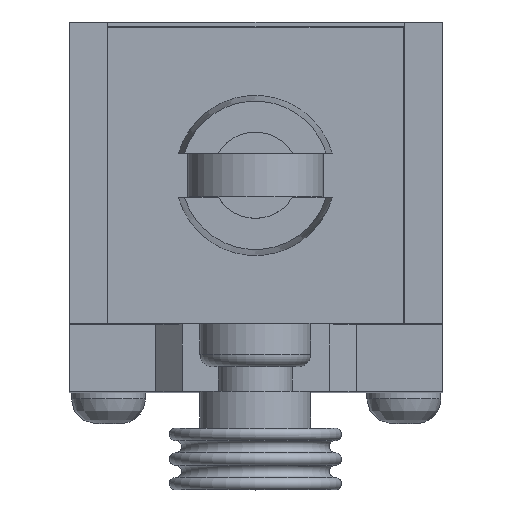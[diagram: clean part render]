
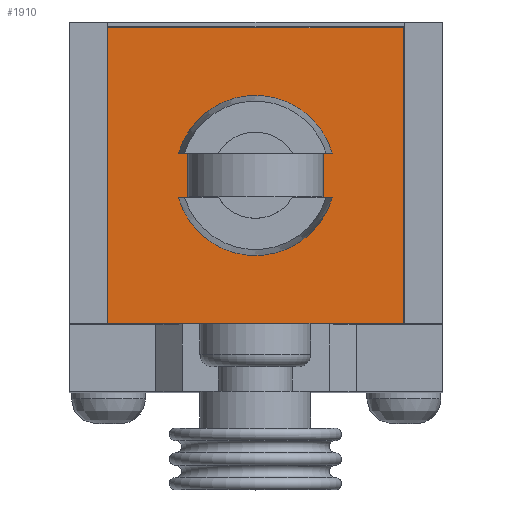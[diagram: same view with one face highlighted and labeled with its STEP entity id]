
A CAD part, top view. The second image highlights one B-rep face of the part: STEP entity #1910.
In plain terms, the highlighted planar face has unit normal (0, 0, 1).
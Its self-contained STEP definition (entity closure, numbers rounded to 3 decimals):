
#1687=CARTESIAN_POINT('',(12.,14.55,67.));
#1688=VERTEX_POINT('',#1687);
#1697=CARTESIAN_POINT('',(12.,-9.45,67.0));
#1698=VERTEX_POINT('',#1697);
#1699=CARTESIAN_POINT('',(12.,-9.45,67.));
#1700=DIRECTION('',(0.0,1.0,0.0));
#1701=VECTOR('',#1700,24.);
#1702=LINE('',#1699,#1701);
#1703=EDGE_CURVE('',#1698,#1688,#1702,.T.);
#1729=CARTESIAN_POINT('',(-12.,14.55,67.));
#1730=VERTEX_POINT('',#1729);
#1745=CARTESIAN_POINT('',(-12.,-9.45,67.0));
#1746=VERTEX_POINT('',#1745);
#1753=CARTESIAN_POINT('',(-12.,14.55,67.));
#1754=DIRECTION('',(0.0,-1.0,0.0));
#1755=VECTOR('',#1754,24.);
#1756=LINE('',#1753,#1755);
#1757=EDGE_CURVE('',#1730,#1746,#1756,.T.);
#1774=CARTESIAN_POINT('',(-12.,-9.45,67.));
#1775=DIRECTION('',(1.0,0.0,0.0));
#1776=VECTOR('',#1775,24.);
#1777=LINE('',#1774,#1776);
#1778=EDGE_CURVE('',#1746,#1698,#1777,.T.);
#1820=CARTESIAN_POINT('',(12.,14.55,67.));
#1821=DIRECTION('',(-1.0,0.0,0.0));
#1822=VECTOR('',#1821,24.);
#1823=LINE('',#1820,#1822);
#1824=EDGE_CURVE('',#1688,#1730,#1823,.T.);
#1829=CARTESIAN_POINT('',(0.,2.55,67.));
#1830=DIRECTION('',(0.0,0.0,1.0));
#1831=DIRECTION('',(1.0,0.0,0.0));
#1832=AXIS2_PLACEMENT_3D('',#1829,#1830,#1831);
#1833=PLANE('',#1832);
#1834=ORIENTED_EDGE('',*,*,#1703,.T.);
#1835=ORIENTED_EDGE('',*,*,#1824,.T.);
#1836=ORIENTED_EDGE('',*,*,#1757,.T.);
#1837=ORIENTED_EDGE('',*,*,#1778,.T.);
#1838=EDGE_LOOP('',(#1834,#1835,#1836,#1837));
#1839=FACE_OUTER_BOUND('',#1838,.T.);
#1840=CARTESIAN_POINT('',(3.002,4.35,67.));
#1841=VERTEX_POINT('',#1840);
#1842=CARTESIAN_POINT('',(3.002,0.75,67.));
#1843=VERTEX_POINT('',#1842);
#1844=CARTESIAN_POINT('',(0.,2.55,67.));
#1845=DIRECTION('',(0.0,0.0,-1.0));
#1846=DIRECTION('',(-1.0,0.0,0.0));
#1847=AXIS2_PLACEMENT_3D('',#1844,#1845,#1846);
#1848=CIRCLE('',#1847,3.5);
#1849=EDGE_CURVE('',#1841,#1843,#1848,.T.);
#1850=ORIENTED_EDGE('',*,*,#1849,.T.);
#1851=CARTESIAN_POINT('',(6.246,0.75,67.));
#1852=VERTEX_POINT('',#1851);
#1853=CARTESIAN_POINT('',(6.246,0.75,67.));
#1854=DIRECTION('',(-1.0,0.0,0.0));
#1855=VECTOR('',#1854,3.244);
#1856=LINE('',#1853,#1855);
#1857=EDGE_CURVE('',#1852,#1843,#1856,.T.);
#1858=ORIENTED_EDGE('',*,*,#1857,.F.);
#1859=CARTESIAN_POINT('',(-6.246,0.75,67.));
#1860=VERTEX_POINT('',#1859);
#1861=CARTESIAN_POINT('',(0.,2.55,67.));
#1862=DIRECTION('',(0.0,0.0,-1.0));
#1863=DIRECTION('',(-1.0,0.0,0.0));
#1864=AXIS2_PLACEMENT_3D('',#1861,#1862,#1863);
#1865=CIRCLE('',#1864,6.5);
#1866=EDGE_CURVE('',#1852,#1860,#1865,.T.);
#1867=ORIENTED_EDGE('',*,*,#1866,.T.);
#1868=CARTESIAN_POINT('',(-3.002,0.75,67.));
#1869=VERTEX_POINT('',#1868);
#1870=CARTESIAN_POINT('',(-3.002,0.75,67.));
#1871=DIRECTION('',(-1.0,0.0,0.0));
#1872=VECTOR('',#1871,3.244);
#1873=LINE('',#1870,#1872);
#1874=EDGE_CURVE('',#1869,#1860,#1873,.T.);
#1875=ORIENTED_EDGE('',*,*,#1874,.F.);
#1876=CARTESIAN_POINT('',(-3.002,4.35,67.));
#1877=VERTEX_POINT('',#1876);
#1878=CARTESIAN_POINT('',(0.,2.55,67.));
#1879=DIRECTION('',(0.0,0.0,-1.0));
#1880=DIRECTION('',(-1.0,0.0,0.0));
#1881=AXIS2_PLACEMENT_3D('',#1878,#1879,#1880);
#1882=CIRCLE('',#1881,3.5);
#1883=EDGE_CURVE('',#1869,#1877,#1882,.T.);
#1884=ORIENTED_EDGE('',*,*,#1883,.T.);
#1885=CARTESIAN_POINT('',(-6.246,4.35,67.));
#1886=VERTEX_POINT('',#1885);
#1887=CARTESIAN_POINT('',(-3.002,4.35,67.));
#1888=DIRECTION('',(-1.0,0.0,0.0));
#1889=VECTOR('',#1888,3.244);
#1890=LINE('',#1887,#1889);
#1891=EDGE_CURVE('',#1877,#1886,#1890,.T.);
#1892=ORIENTED_EDGE('',*,*,#1891,.T.);
#1893=CARTESIAN_POINT('',(6.246,4.35,67.));
#1894=VERTEX_POINT('',#1893);
#1895=CARTESIAN_POINT('',(0.,2.55,67.));
#1896=DIRECTION('',(0.0,0.0,-1.0));
#1897=DIRECTION('',(-1.0,0.0,0.0));
#1898=AXIS2_PLACEMENT_3D('',#1895,#1896,#1897);
#1899=CIRCLE('',#1898,6.5);
#1900=EDGE_CURVE('',#1886,#1894,#1899,.T.);
#1901=ORIENTED_EDGE('',*,*,#1900,.T.);
#1902=CARTESIAN_POINT('',(6.246,4.35,67.));
#1903=DIRECTION('',(-1.0,0.0,0.0));
#1904=VECTOR('',#1903,3.244);
#1905=LINE('',#1902,#1904);
#1906=EDGE_CURVE('',#1894,#1841,#1905,.T.);
#1907=ORIENTED_EDGE('',*,*,#1906,.T.);
#1908=EDGE_LOOP('',(#1850,#1858,#1867,#1875,#1884,#1892,#1901,#1907));
#1909=FACE_BOUND('',#1908,.T.);
#1910=ADVANCED_FACE('',(#1839,#1909),#1833,.T.);
